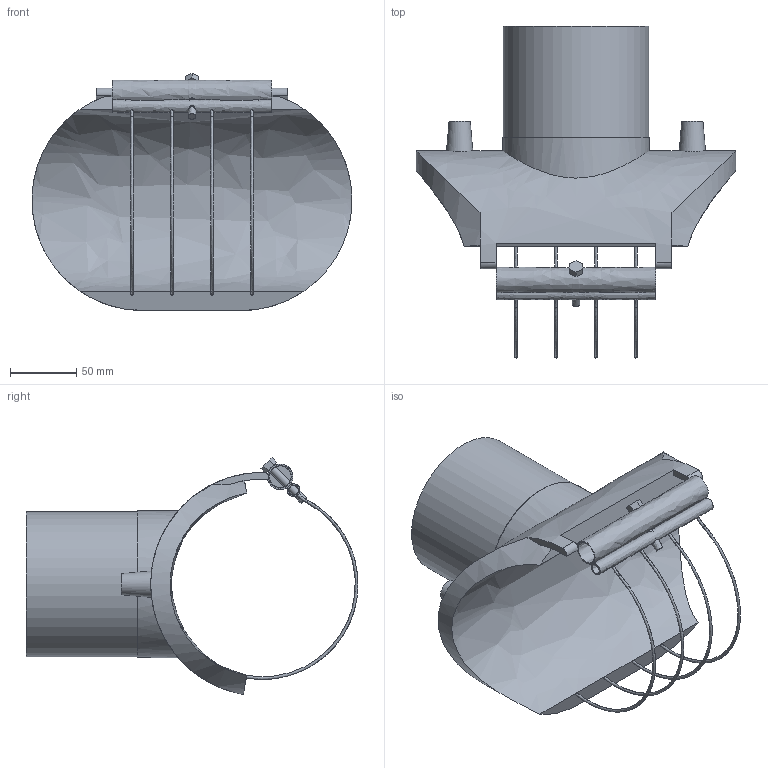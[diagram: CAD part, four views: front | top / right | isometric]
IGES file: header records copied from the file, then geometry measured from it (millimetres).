
Global section: file name: 4958X4140110T; native system: Autodesk Inventor 2021; preprocessor: unknown; author: KIM; date: 20250507.121508; units: millimetre
Bounding box: 242 x 251 x 179.22 mm (x, y, z)
Volume: 1020576.6 mm3; surface area: 199601.3 mm2
Topology: 1 solids, 1 shells, 62 faces, 187 edges, 126 vertices
Faces by surface type: bspline 62
